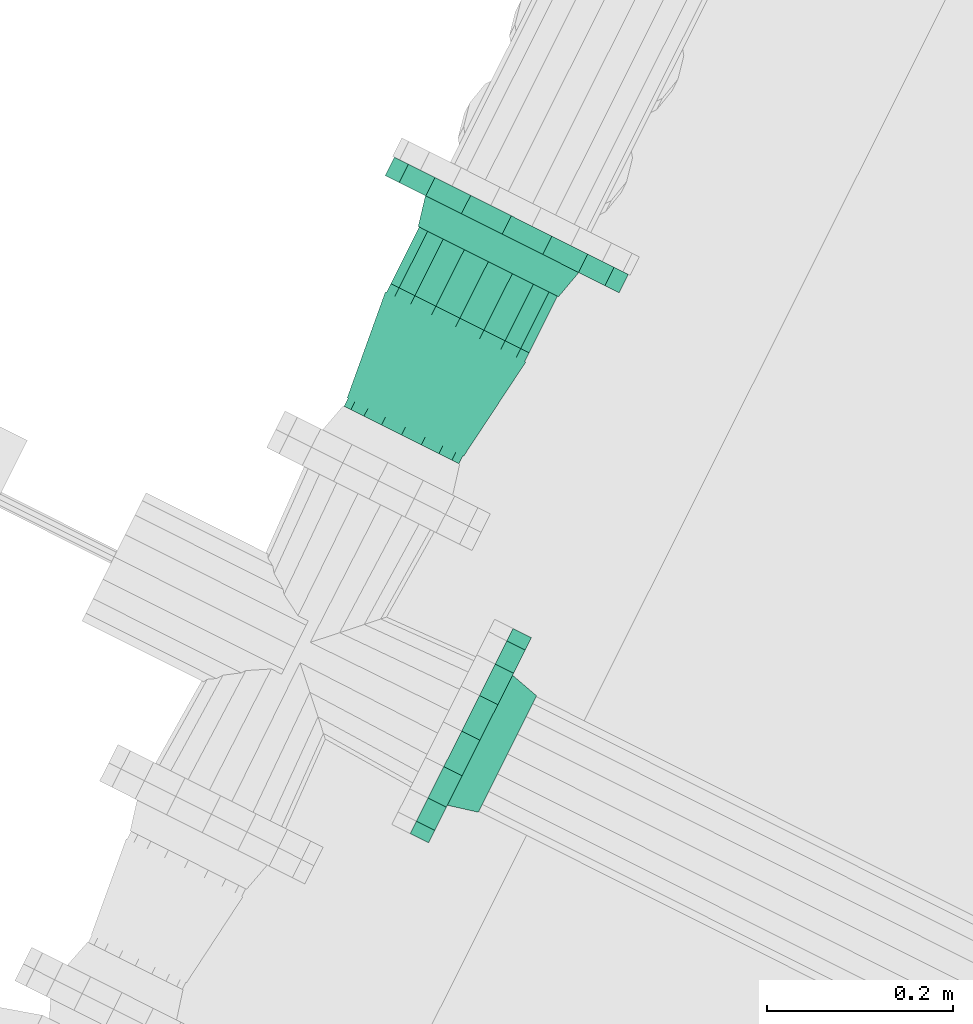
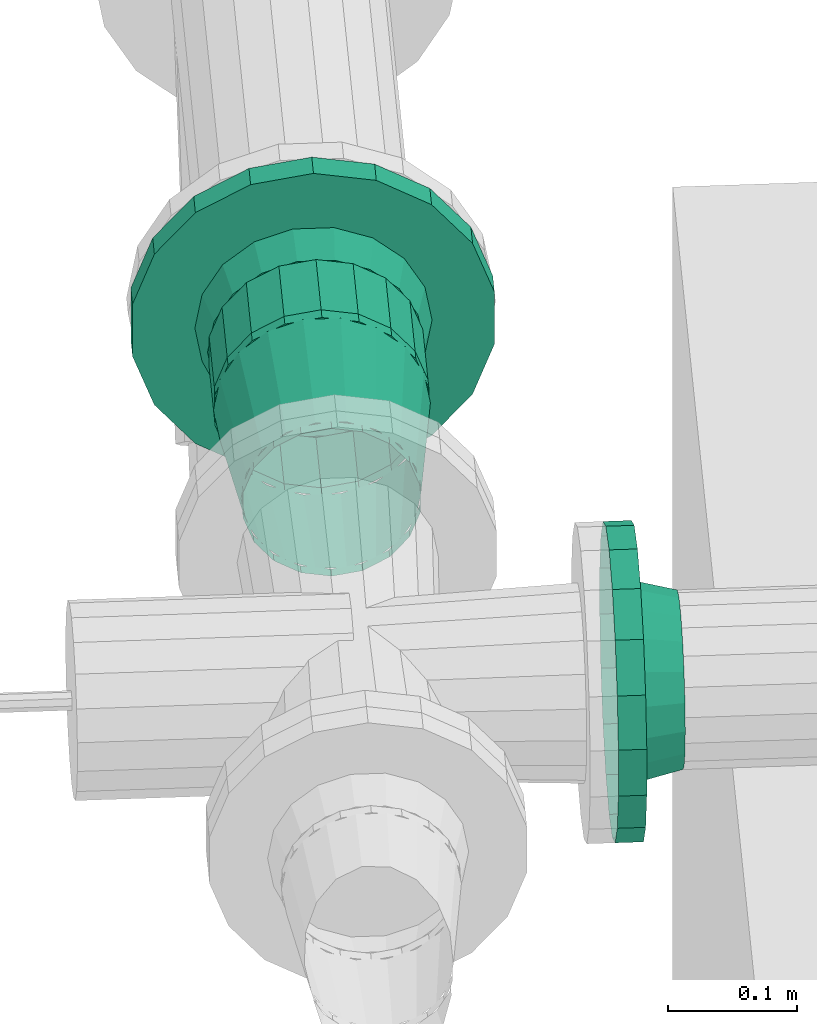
# One storey, part 120 of 206: 3 flow fittings, 1 flow segment.
"""IFC2X3 building model written with IfcOpenShell, lengths in metres."""

import ifcopenshell
import ifcopenshell.guid

model = None  # the IFC model being written
_history = None  # IfcOwnerHistory: only IFC2X3 demands one
_inside = {}  # id of a spatial element -> (the spatial element, [elements in it])
_under = {}  # id of a project, library or spatial element -> (it, [spatial elements below it])
_declared = {}  # id of a project -> (the project, [libraries it declares])
_typed = {}  # id of a type object -> (the type object, [elements of that type])
_made_of = {}  # id of a material, layer set ... -> (it, [elements and type objects made of it])


def new_model(schema):
    """Start an empty IFC model of exactly this schema.

    Asked for "IFC4X3", IfcOpenShell would pick the latest addendum, in which some entities
    have other attributes; the version numbers below select the first issue.
    IFC2X3 requires an IfcOwnerHistory on every rooted entity: one is made here for all.
    """
    global model, _history
    if schema == "IFC4X3":
        model = ifcopenshell.file(schema_version=(4, 3, 0, 0))
    else:
        model = ifcopenshell.file(schema=schema)
    _inside.clear()
    _under.clear()
    _declared.clear()
    _typed.clear()
    _made_of.clear()
    _history = None
    if model.schema == "IFC2X3":
        org = make("IfcOrganization", Name="unknown")
        user = make(
            "IfcPersonAndOrganization",
            ThePerson=make("IfcPerson", FamilyName="unknown"),
            TheOrganization=org,
        )
        app = make(
            "IfcApplication",
            ApplicationDeveloper=org,
            Version="unknown",
            ApplicationFullName="unknown",
            ApplicationIdentifier="unknown",
        )
        _history = make(
            "IfcOwnerHistory",
            OwningUser=user,
            OwningApplication=app,
            ChangeAction="ADDED",
            CreationDate=0,
        )
    return model


def make(cls, **values):
    """One entity of the class cls with the attributes given. An attribute that is None is left unset."""
    return model.create_entity(
        cls, **{name: value for name, value in values.items() if value is not None}
    )


def rooted(cls, **values):
    """An entity with a GlobalId (a new one), such as an element, a storey or a relation."""
    return make(cls, GlobalId=ifcopenshell.guid.new(), OwnerHistory=_history, **values)


def si_unit(unit_type, name, prefix=None):
    """IfcSIUnit, for example si_unit("LENGTHUNIT", "METRE", prefix="MILLI")."""
    return make("IfcSIUnit", UnitType=unit_type, Prefix=prefix, Name=name)


def derived_unit(unit_type, elements):
    """IfcDerivedUnit: a product of units, each with its exponent."""
    return make(
        "IfcDerivedUnit",
        Elements=[
            make("IfcDerivedUnitElement", Unit=unit, Exponent=power)
            for unit, power in elements
        ],
        UnitType=unit_type,
    )


def assignment(units):
    """IfcUnitAssignment: the units of a project."""
    return None if units is None else make("IfcUnitAssignment", Units=units)


def point(xyz):
    """IfcCartesianPoint."""
    return None if xyz is None else make("IfcCartesianPoint", Coordinates=xyz)


def direction(xyz):
    """IfcDirection."""
    return None if xyz is None else make("IfcDirection", DirectionRatios=xyz)


def frame(location, z_axis=None, x_axis=None):
    """IfcAxis2Placement3D, a coordinate frame: its origin and axes. An axis left out is left unset."""
    return make(
        "IfcAxis2Placement3D",
        Location=point(location),
        Axis=direction(z_axis),
        RefDirection=direction(x_axis),
    )


def origin():
    """The frame at (0, 0, 0) with its axes left unset."""
    return frame((0.0, 0.0, 0.0))


def place(relative_to, where):
    """IfcLocalPlacement: puts the frame where relative to a parent placement (None: the world)."""
    return make(
        "IfcLocalPlacement", PlacementRelTo=relative_to, RelativePlacement=where
    )


def context(
    kind, dimensions, precision=None, world=None, true_north=None, identifier=None
):
    """IfcGeometricRepresentationContext, for example the 3D "Model" context."""
    return make(
        "IfcGeometricRepresentationContext",
        ContextIdentifier=identifier,
        ContextType=kind,
        CoordinateSpaceDimension=dimensions,
        Precision=precision,
        WorldCoordinateSystem=world,
        TrueNorth=true_north,
    )


def subcontext(parent, identifier, kind, view, scale=None):
    """IfcGeometricRepresentationSubContext, for example "Body" below "Model"."""
    return make(
        "IfcGeometricRepresentationSubContext",
        ContextIdentifier=identifier,
        ContextType=kind,
        ParentContext=parent,
        TargetScale=scale,
        TargetView=view,
    )


def project(units=None, contexts=None):
    """IfcProject with its units and contexts."""
    return rooted(
        "IfcProject",
        Name="project",
        RepresentationContexts=contexts,
        UnitsInContext=assignment(units),
    )


def spatial(cls, under=None, at=None, **own):
    """A site, building, storey or space (cls), placed at a placement, below another one or the project."""
    s = rooted(cls, ObjectPlacement=at, **own)
    if under is not None:
        _under.setdefault(under.id(), (under, []))[1].append(s)
    return s


def faces_of(points, faces, orient=None, outer=None):
    """IfcFace entities. A face is a list of loops; a loop is a list of indices into points, from 0.

    orient and outer hold one flag for each loop. By default every Orientation is true, the
    first loop of a face is its IfcFaceOuterBound and the others are IfcFaceBound.
    """
    made = []
    for i, loops in enumerate(faces):
        bounds = []
        for j, loop in enumerate(loops):
            is_outer = j == 0 if outer is None else outer[i][j]
            bounds.append(
                make(
                    "IfcFaceOuterBound" if is_outer else "IfcFaceBound",
                    Bound=make("IfcPolyLoop", Polygon=[points[k] for k in loop]),
                    Orientation=True if orient is None else orient[i][j],
                )
            )
        made.append(make("IfcFace", Bounds=bounds))
    return made


def face_set(faces, orient=None, outer=None):
    """The faces of one IfcConnectedFaceSet. surface_model builds it on its shared points."""
    return ("IfcConnectedFaceSet", faces, orient, outer)


def surface_model(cls, points, shells):
    """IfcFaceBasedSurfaceModel or IfcShellBasedSurfaceModel (cls): surfaces that need not close."""
    shared = [point(p) for p in points]
    made = [make(c, CfsFaces=faces_of(shared, fs, o, b)) for c, fs, o, b in shells]
    if cls == "IfcFaceBasedSurfaceModel":
        return make(cls, FbsmFaces=made)
    return make(cls, SbsmBoundary=made)


def shape(context_of_items, identifier, shape_type, items):
    """IfcShapeRepresentation: the items that make up one representation, for example the "Body"."""
    return make(
        "IfcShapeRepresentation",
        ContextOfItems=context_of_items,
        RepresentationIdentifier=identifier,
        RepresentationType=shape_type,
        Items=items,
    )


def source(mapping_origin, context_of_items, identifier, shape_type, items):
    """IfcRepresentationMap: a shape defined once, which mapped items show again and again."""
    return make(
        "IfcRepresentationMap",
        MappingOrigin=mapping_origin,
        MappedRepresentation=shape(context_of_items, identifier, shape_type, items),
    )


def transform(
    local_origin,
    x_axis=None,
    y_axis=None,
    z_axis=None,
    scale=None,
    scale2=None,
    scale3=None,
    uniform=True,
):
    """IfcCartesianTransformationOperator3D, or its non-uniform kind. x_axis, y_axis, z_axis: its Axis1, 2, 3."""
    if uniform:
        return make(
            "IfcCartesianTransformationOperator3D",
            Axis1=direction(x_axis),
            Axis2=direction(y_axis),
            LocalOrigin=point(local_origin),
            Scale=scale,
            Axis3=direction(z_axis),
        )
    return make(
        "IfcCartesianTransformationOperator3DnonUniform",
        Axis1=direction(x_axis),
        Axis2=direction(y_axis),
        LocalOrigin=point(local_origin),
        Scale=scale,
        Axis3=direction(z_axis),
        Scale2=scale2,
        Scale3=scale3,
    )


def mapped(mapping_source, mapping_target):
    """IfcMappedItem: shows the shape of a source again, moved by a transform."""
    return make(
        "IfcMappedItem", MappingSource=mapping_source, MappingTarget=mapping_target
    )


def material(Name=None, Category=None):
    """IfcMaterial."""
    return make("IfcMaterial", Name=Name, Category=Category)


def made_of(thing, what):
    """Note that an element or type object is made of a material, layer set ...; save() writes the relation."""
    if what is not None:
        _made_of.setdefault(what.id(), (what, []))[1].append(thing)
    return thing


def type_object(cls, material=None, **own):
    """A type object (cls), such as IfcWallType, which elements share."""
    return made_of(rooted(cls, **own), material)


def type_shapes(of_type, sources):
    """Give a type object the sources (RepresentationMaps) that its elements show as mapped items."""
    of_type.RepresentationMaps = sources


def element(
    cls,
    number,
    at=None,
    inside=None,
    cuts=None,
    type_object=None,
    material=None,
    context=None,
    identifier="Body",
    shape_type=None,
    held_by="IfcProductDefinitionShape",
    body=None,
    shapes=None,
    **own,
):
    """One element of the class cls, such as IfcWall. Its Tag is "e" and its number.

    at: its placement. inside: the storey or other place that contains it. cuts: it is an
    opening in that element (IfcRelVoidsElement). A single representation is given by context,
    identifier, shape_type and body (its items); several are given by shapes. held_by: the class
    of the entity that holds the representations. save() writes the other relations.
    """
    e = rooted(cls, Tag="e%d" % number, ObjectPlacement=at, **own)
    if body is not None:
        shapes = [shape(context, identifier, shape_type, body)]
    if shapes is not None:
        e.Representation = make(held_by, Representations=shapes)
    if inside is not None:
        _inside.setdefault(inside.id(), (inside, []))[1].append(e)
    if cuts is not None:
        rooted(
            "IfcRelVoidsElement", RelatingBuildingElement=cuts, RelatedOpeningElement=e
        )
    if type_object is not None:
        _typed.setdefault(type_object.id(), (type_object, []))[1].append(e)
    return made_of(e, material)


def aggregate(whole, parts):
    """IfcRelAggregates: a whole, such as a stair, and the parts it consists of."""
    return rooted("IfcRelAggregates", RelatingObject=whole, RelatedObjects=parts)


def save(model, path):
    """Write the relations noted so far, then the file.

    IfcRelAggregates (storeys below a building ...), IfcRelContainedInSpatialStructure (elements
    in a storey), IfcRelDefinesByType, IfcRelAssociatesMaterial and IfcRelDeclares: one each for
    every whole, place, type object, material and project.
    """
    for whole, parts in _under.values():
        aggregate(whole, parts)
    for where, things in _inside.values():
        rooted(
            "IfcRelContainedInSpatialStructure",
            RelatedElements=things,
            RelatingStructure=where,
        )
    for kind, things in _typed.values():
        rooted("IfcRelDefinesByType", RelatedObjects=things, RelatingType=kind)
    for what, things in _made_of.values():
        rooted("IfcRelAssociatesMaterial", RelatedObjects=things, RelatingMaterial=what)
    for by, libraries in _declared.values():
        rooted("IfcRelDeclares", RelatingContext=by, RelatedDefinitions=libraries)
    model.write(path)


model = new_model("IFC2X3")

# Units and contexts
model_context = context("Model", 3, precision=5.2338327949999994e-05, world=origin(), true_north=direction((0.0, 1.0)))
body_context = subcontext(model_context, "Body", "Model", "MODEL_VIEW")
ifc_project = project(units=[si_unit("LENGTHUNIT", "METRE"), si_unit("AREAUNIT", "SQUARE_METRE"), si_unit("VOLUMEUNIT", "CUBIC_METRE"), si_unit("MASSUNIT", "GRAM", prefix="KILO"), si_unit("PLANEANGLEUNIT", "RADIAN"), derived_unit("THERMALTRANSMITTANCEUNIT", [(si_unit("MASSUNIT", "GRAM", prefix="KILO"), 1), (si_unit("THERMODYNAMICTEMPERATUREUNIT", "KELVIN"), -1), (si_unit("TIMEUNIT", "SECOND"), -3)])], contexts=[model_context])

# Site, building, storey
site_placement = place(None, frame((0.0, 0.0, 0.0), z_axis=(0.0, 0.0, 1.0), x_axis=(0.8939966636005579, -0.4480736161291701, 0.0)))
site = spatial("IfcSite", under=ifc_project, at=site_placement, Name="Default", CompositionType="ELEMENT")
building_placement = place(site_placement, origin())
building = spatial("IfcBuilding", under=site, at=building_placement, CompositionType="ELEMENT")
storey_placement = place(building_placement, origin())
storey = spatial("IfcBuildingStorey", under=building, at=storey_placement, Name="Erdgeschoss", CompositionType="ELEMENT", Elevation=0.0)

# Flow fitting
ifc_material = material(Name="IfcSurfaceStyle #1741")
distribution_element_type_1 = type_object("IfcDistributionElementType", Name="Übergangsstück 314738:Übergangsstück 314738", material=ifc_material)
shared_shape_1 = source(origin(), body_context, "Body", "SurfaceModel", [
    surface_model("IfcFaceBasedSurfaceModel", [(20.35098007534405, 6.913961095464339, 2.28415), (20.327089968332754, 6.913961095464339, 2.2883624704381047), (20.327089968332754, 6.92349026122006, 2.2883624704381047), (20.35098007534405, 6.92349026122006, 2.28415), (20.306081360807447, 6.913961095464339, 2.3004917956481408), (20.306081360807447, 6.92349026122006, 2.3004917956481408), (20.29048820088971, 6.913961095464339, 2.3190750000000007), (20.29048820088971, 6.92349026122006, 2.3190750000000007), (20.282191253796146, 6.913961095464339, 2.3418706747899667), (20.282191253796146, 6.92349026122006, 2.3418706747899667), (20.282191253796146, 6.913961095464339, 2.366129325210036), (20.282191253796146, 6.92349026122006, 2.366129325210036), (20.29048820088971, 6.913961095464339, 2.3889250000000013), (20.29048820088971, 6.92349026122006, 2.3889250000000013), (20.306081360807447, 6.913961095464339, 2.407508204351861), (20.306081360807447, 6.92349026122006, 2.407508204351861), (20.327089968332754, 6.913961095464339, 2.419637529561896), (20.327089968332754, 6.92349026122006, 2.419637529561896), (20.350980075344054, 6.913961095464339, 2.4238500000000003), (20.350980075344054, 6.92349026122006, 2.4238500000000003), (20.37487018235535, 6.913961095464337, 2.419637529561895), (20.37487018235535, 6.92349026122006, 2.4196375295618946), (20.39587878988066, 6.913961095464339, 2.407508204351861), (20.39587878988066, 6.92349026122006, 2.4075082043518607), (20.411471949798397, 6.913961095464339, 2.3889249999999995), (20.411471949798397, 6.92349026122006, 2.3889249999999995), (20.419768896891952, 6.913961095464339, 2.366129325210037), (20.419768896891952, 6.92349026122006, 2.366129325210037), (20.419768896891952, 6.913961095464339, 2.3418706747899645), (20.419768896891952, 6.92349026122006, 2.3418706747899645), (20.411471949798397, 6.913961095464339, 2.319074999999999), (20.411471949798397, 6.92349026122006, 2.319074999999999), (20.39587878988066, 6.913961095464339, 2.3004917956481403), (20.39587878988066, 6.92349026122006, 2.3004917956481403), (20.37487018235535, 6.913961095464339, 2.2883624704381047), (20.37487018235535, 6.92349026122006, 2.2883624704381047), (20.281130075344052, 6.92349026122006, 2.3539999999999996), (20.28534254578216, 6.92349026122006, 2.377890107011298), (20.271904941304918, 7.043501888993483, 2.3827809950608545), (20.266830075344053, 7.043501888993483, 2.354000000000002), (20.29747187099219, 6.92349026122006, 2.398898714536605), (20.28651743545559, 7.043501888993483, 2.408090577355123), (20.316055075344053, 6.92349026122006, 2.414491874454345), (20.30890507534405, 7.043501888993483, 2.4268760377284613), (20.338850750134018, 6.92349026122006, 2.422788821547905), (20.33636758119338, 7.043501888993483, 2.4368715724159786), (20.363109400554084, 6.92349026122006, 2.422788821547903), (20.365592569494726, 7.043501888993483, 2.4368715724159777), (20.38590507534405, 6.92349026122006, 2.414491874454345), (20.39305507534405, 7.043501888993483, 2.4268760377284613), (20.404488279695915, 6.92349026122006, 2.3988987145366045), (20.415442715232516, 7.043501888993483, 2.4080905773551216), (20.416617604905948, 6.92349026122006, 2.3778901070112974), (20.43005520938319, 7.043501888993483, 2.382780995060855), (20.420830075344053, 6.92349026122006, 2.353999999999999), (20.435130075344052, 7.043501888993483, 2.3539999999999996), (20.416617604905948, 6.92349026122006, 2.330109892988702), (20.430055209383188, 7.043501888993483, 2.3252190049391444), (20.404488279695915, 6.92349026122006, 2.309101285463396), (20.415442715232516, 7.043501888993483, 2.299909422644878), (20.38590507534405, 6.92349026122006, 2.2935081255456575), (20.393055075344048, 7.043501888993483, 2.2811239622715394), (20.363109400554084, 6.92349026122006, 2.2852111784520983), (20.36559256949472, 7.043501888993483, 2.2711284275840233), (20.338850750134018, 6.92349026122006, 2.285211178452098), (20.33636758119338, 7.043501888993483, 2.271128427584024), (20.316055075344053, 6.92349026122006, 2.2935081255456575), (20.30890507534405, 7.043501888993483, 2.2811239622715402), (20.29747187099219, 6.92349026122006, 2.309101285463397), (20.286517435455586, 7.043501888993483, 2.2999094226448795), (20.285342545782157, 6.92349026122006, 2.3301098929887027), (20.271904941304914, 7.043501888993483, 2.325219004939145), (20.35098007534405, 7.043501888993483, 2.2698500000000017), (20.32219908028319, 7.043501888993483, 2.274924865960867), (20.32219908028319, 7.053961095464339, 2.274924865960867), (20.35098007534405, 7.053961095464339, 2.2698500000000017), (20.296889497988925, 7.043501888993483, 2.28953736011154), (20.296889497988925, 7.053961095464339, 2.28953736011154), (20.278104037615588, 7.043501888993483, 2.311925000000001), (20.278104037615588, 7.053961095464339, 2.311925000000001), (20.268108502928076, 7.043501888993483, 2.339387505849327), (20.268108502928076, 7.053961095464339, 2.339387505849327), (20.268108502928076, 7.043501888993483, 2.3686124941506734), (20.268108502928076, 7.053961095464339, 2.3686124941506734), (20.278104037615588, 7.043501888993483, 2.396075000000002), (20.278104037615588, 7.053961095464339, 2.396075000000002), (20.29688949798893, 7.043501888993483, 2.4184626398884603), (20.29688949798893, 7.053961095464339, 2.4184626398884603), (20.322199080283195, 7.043501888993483, 2.433075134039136), (20.322199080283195, 7.053961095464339, 2.433075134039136), (20.350980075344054, 7.043501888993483, 2.4381500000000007), (20.350980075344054, 7.053961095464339, 2.4381500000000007), (20.37976107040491, 7.043501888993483, 2.4330751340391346), (20.37976107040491, 7.053961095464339, 2.4330751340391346), (20.40507065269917, 7.043501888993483, 2.4184626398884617), (20.40507065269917, 7.053961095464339, 2.4184626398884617), (20.42385611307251, 7.043501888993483, 2.396074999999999), (20.42385611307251, 7.053961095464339, 2.396074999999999), (20.43385164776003, 7.043501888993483, 2.3686124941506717), (20.43385164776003, 7.053961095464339, 2.3686124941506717), (20.43385164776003, 7.043501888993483, 2.339387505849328), (20.43385164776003, 7.053961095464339, 2.339387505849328), (20.42385611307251, 7.043501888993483, 2.311924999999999), (20.42385611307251, 7.053961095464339, 2.311924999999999), (20.40507065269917, 7.043501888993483, 2.289537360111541), (20.40507065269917, 7.053961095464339, 2.289537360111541), (20.3797610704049, 7.043501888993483, 2.274924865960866), (20.3797610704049, 7.053961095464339, 2.274924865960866)], [face_set([[[0, 1, 2, 3]], [[1, 4, 5, 2]], [[4, 6, 7, 5]], [[6, 8, 9, 7]], [[8, 10, 11, 9]], [[10, 12, 13, 11]], [[12, 14, 15, 13]], [[14, 16, 17, 15]], [[16, 18, 19, 17]], [[18, 20, 21, 19]], [[20, 22, 23, 21]], [[22, 24, 25, 23]], [[24, 26, 27, 25]], [[26, 28, 29, 27]], [[28, 30, 31, 29]], [[30, 32, 33, 31]], [[32, 34, 35, 33]], [[34, 0, 3, 35]], [[36, 37, 38, 39]], [[37, 40, 41, 38]], [[40, 42, 43, 41]], [[42, 44, 45, 43]], [[44, 46, 47, 45]], [[46, 48, 49, 47]], [[48, 50, 51, 49]], [[50, 52, 53, 51]], [[52, 54, 55, 53]], [[54, 56, 57, 55]], [[56, 58, 59, 57]], [[58, 60, 61, 59]], [[60, 62, 63, 61]], [[62, 64, 65, 63]], [[64, 66, 67, 65]], [[66, 68, 69, 67]], [[68, 70, 71, 69]], [[70, 36, 39, 71]], [[72, 73, 74, 75]], [[73, 76, 77, 74]], [[76, 78, 79, 77]], [[78, 80, 81, 79]], [[80, 82, 83, 81]], [[82, 84, 85, 83]], [[84, 86, 87, 85]], [[86, 88, 89, 87]], [[88, 90, 91, 89]], [[90, 92, 93, 91]], [[92, 94, 95, 93]], [[94, 96, 97, 95]], [[96, 98, 99, 97]], [[98, 100, 101, 99]], [[100, 102, 103, 101]], [[102, 104, 105, 103]], [[104, 106, 107, 105]], [[106, 72, 75, 107]]])]),
])
type_shapes(distribution_element_type_1, [shared_shape_1])
flow_fitting_1_placement = place(storey_placement, origin())
element("IfcFlowFitting", 1, at=flow_fitting_1_placement, inside=storey, type_object=distribution_element_type_1, material=ifc_material, Name="Übergangsstück", ObjectType="Übergangsstück", context=body_context, shape_type="MappedRepresentation", body=[
    mapped(shared_shape_1, transform((0.0, 0.0, 0.0), scale=1.0)),
])

# Flow segment
distribution_element_type_2 = type_object("IfcDistributionElementType", Name="Stahlrohr nach DIN 2448 314761:Stahlrohr nach DIN 2448 314761", material=ifc_material)
shared_shape_2 = source(origin(), body_context, "Body", "SurfaceModel", [
    surface_model("IfcFaceBasedSurfaceModel", [(20.350980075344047, 7.053961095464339, 2.438149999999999), (20.3797610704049, 7.053961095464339, 2.4330751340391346), (20.379761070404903, 7.12189267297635, 2.433075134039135), (20.35098007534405, 7.12189267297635, 2.43815), (20.405070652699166, 7.053961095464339, 2.4184626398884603), (20.405070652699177, 7.12189267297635, 2.418462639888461), (20.423856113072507, 7.053961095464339, 2.396075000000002), (20.423856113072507, 7.12189267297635, 2.396075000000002), (20.433851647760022, 7.053961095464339, 2.3686124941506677), (20.43385164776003, 7.12189267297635, 2.3686124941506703), (20.433851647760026, 7.053961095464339, 2.339387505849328), (20.433851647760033, 7.12189267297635, 2.339387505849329), (20.423856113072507, 7.053961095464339, 2.3119250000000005), (20.423856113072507, 7.12189267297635, 2.3119250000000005), (20.405070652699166, 7.053961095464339, 2.289537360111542), (20.405070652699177, 7.12189267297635, 2.2895373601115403), (20.3797610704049, 7.053961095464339, 2.274924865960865), (20.379761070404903, 7.12189267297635, 2.2749248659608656), (20.350980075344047, 7.0539610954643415, 2.269849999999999), (20.35098007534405, 7.12189267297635, 2.2698500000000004), (20.32219908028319, 7.053961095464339, 2.2749248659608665), (20.322199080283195, 7.12189267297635, 2.2749248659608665), (20.296889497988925, 7.053961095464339, 2.28953736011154), (20.29688949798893, 7.12189267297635, 2.2895373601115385), (20.27810403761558, 7.053961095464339, 2.3119249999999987), (20.278104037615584, 7.12189267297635, 2.311925), (20.268108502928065, 7.053961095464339, 2.3393875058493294), (20.268108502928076, 7.12189267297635, 2.3393875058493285), (20.268108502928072, 7.053961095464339, 2.3686124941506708), (20.268108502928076, 7.12189267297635, 2.368612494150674), (20.27810403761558, 7.053961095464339, 2.396075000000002), (20.278104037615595, 7.12189267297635, 2.396075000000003), (20.296889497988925, 7.053961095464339, 2.4184626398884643), (20.296889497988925, 7.12189267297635, 2.418462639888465), (20.32219908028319, 7.053961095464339, 2.4330751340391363), (20.3221990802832, 7.12189267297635, 2.4330751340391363)], [face_set([[[0, 1, 2, 3]], [[1, 4, 5, 2]], [[4, 6, 7, 5]], [[6, 8, 9, 7]], [[8, 10, 11, 9]], [[10, 12, 13, 11]], [[12, 14, 15, 13]], [[14, 16, 17, 15]], [[16, 18, 19, 17]], [[18, 20, 21, 19]], [[20, 22, 23, 21]], [[22, 24, 25, 23]], [[24, 26, 27, 25]], [[26, 28, 29, 27]], [[28, 30, 31, 29]], [[30, 32, 33, 31]], [[32, 34, 35, 33]], [[34, 0, 3, 35]]])]),
])
type_shapes(distribution_element_type_2, [shared_shape_2])
flow_segment_placement = place(storey_placement, origin())
element("IfcFlowSegment", 2, at=flow_segment_placement, inside=storey, type_object=distribution_element_type_2, material=ifc_material, Name="Stahlrohr nach DIN 2448", ObjectType="Stahlrohr nach DIN 2448", context=body_context, shape_type="MappedRepresentation", body=[
    mapped(shared_shape_2, transform((0.0, 0.0, 0.0), scale=1.0)),
])

# Flow fittings
distribution_element_type_3 = type_object("IfcDistributionElementType", Name="Flansch 314916:Flansch 314916", material=ifc_material)
shared_shape_3 = source(origin(), body_context, "Body", "SurfaceModel", [
    surface_model("IfcFaceBasedSurfaceModel", [(20.43513007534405, 7.121892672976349, 2.353999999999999), (20.430055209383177, 7.121892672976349, 2.325219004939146), (20.437431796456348, 7.15489267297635, 2.3225341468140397), (20.44298007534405, 7.1548926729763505, 2.3539999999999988), (20.415442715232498, 7.121892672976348, 2.2999094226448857), (20.421456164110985, 7.154892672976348, 2.2948635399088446), (20.393055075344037, 7.121892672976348, 2.2811239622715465), (20.396980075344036, 7.154892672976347, 2.2743256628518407), (20.36559256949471, 7.121892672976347, 2.2711284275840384), (20.36695570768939, 7.154892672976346, 2.263397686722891), (20.336367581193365, 7.121892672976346, 2.2711284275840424), (20.33500444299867, 7.154892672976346, 2.2633976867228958), (20.30890507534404, 7.121892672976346, 2.2811239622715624), (20.304980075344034, 7.154892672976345, 2.2743256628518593), (20.286517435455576, 7.121892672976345, 2.2999094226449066), (20.280503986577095, 7.154892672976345, 2.294863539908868), (20.27190494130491, 7.121892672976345, 2.3252190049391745), (20.26452835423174, 7.154892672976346, 2.322534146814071), (20.266830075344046, 7.121892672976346, 2.354000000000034), (20.258980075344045, 7.154892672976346, 2.3540000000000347), (20.271904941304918, 7.121892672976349, 2.382780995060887), (20.264528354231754, 7.154892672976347, 2.385465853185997), (20.286517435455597, 7.121892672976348, 2.4080905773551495), (20.28050398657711, 7.154892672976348, 2.4131364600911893), (20.308905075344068, 7.121892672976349, 2.4268760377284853), (20.304980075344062, 7.15489267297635, 2.433674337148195), (20.336367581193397, 7.121892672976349, 2.4368715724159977), (20.335004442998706, 7.1548926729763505, 2.444602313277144), (20.365592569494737, 7.121892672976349, 2.436871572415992), (20.366955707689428, 7.154892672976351, 2.444602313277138), (20.393055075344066, 7.121892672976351, 2.4268760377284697), (20.39698007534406, 7.154892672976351, 2.4336743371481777), (20.415442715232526, 7.121892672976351, 2.408090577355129), (20.42145616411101, 7.154892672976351, 2.4131364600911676), (20.43005520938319, 7.121892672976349, 2.382780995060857), (20.43743179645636, 7.154892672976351, 2.385465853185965), (20.350980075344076, 7.154892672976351, 2.4965000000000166), (20.399717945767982, 7.154892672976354, 2.487906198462), (20.399717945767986, 7.176892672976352, 2.487906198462), (20.350980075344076, 7.176892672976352, 2.496500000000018), (20.442577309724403, 7.154892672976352, 2.463161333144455), (20.442577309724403, 7.176892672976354, 2.463161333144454), (20.47438869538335, 7.154892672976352, 2.4252499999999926), (20.474388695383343, 7.176892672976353, 2.4252499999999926), (20.491315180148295, 7.154892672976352, 2.3787448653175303), (20.491315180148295, 7.176892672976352, 2.3787448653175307), (20.491315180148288, 7.1548926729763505, 2.3292551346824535), (20.491315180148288, 7.176892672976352, 2.3292551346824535), (20.47438869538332, 7.154892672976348, 2.2827499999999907), (20.47438869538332, 7.17689267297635, 2.2827499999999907), (20.442577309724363, 7.154892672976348, 2.2448386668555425), (20.44257730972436, 7.176892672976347, 2.244838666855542), (20.39971794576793, 7.154892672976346, 2.2200938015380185), (20.399717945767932, 7.176892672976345, 2.220093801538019), (20.30224220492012, 7.154892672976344, 2.220093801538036), (20.2593828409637, 7.154892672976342, 2.2448386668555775), (20.259382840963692, 7.176892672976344, 2.244838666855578), (20.302242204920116, 7.176892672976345, 2.2200938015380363), (20.227571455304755, 7.154892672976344, 2.2827500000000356), (20.227571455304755, 7.176892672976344, 2.2827500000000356), (20.21064497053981, 7.154892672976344, 2.329255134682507), (20.21064497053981, 7.176892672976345, 2.3292551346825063), (20.210644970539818, 7.154892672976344, 2.3787448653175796), (20.210644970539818, 7.176892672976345, 2.3787448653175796), (20.227571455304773, 7.154892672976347, 2.425250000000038), (20.227571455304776, 7.176892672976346, 2.4252500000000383), (20.259382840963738, 7.154892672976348, 2.463161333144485), (20.259382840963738, 7.17689267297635, 2.4631613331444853), (20.302242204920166, 7.1548926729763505, 2.487906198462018), (20.302242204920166, 7.176892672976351, 2.487906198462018), (20.350980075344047, 7.154892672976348, 2.354000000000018), (20.350980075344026, 7.154892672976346, 2.211500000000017), (20.350980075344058, 7.176892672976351, 2.2115000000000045)], [face_set([[[0, 1, 2, 3]], [[1, 4, 5, 2]], [[4, 6, 7, 5]], [[6, 8, 9, 7]], [[8, 10, 11, 9]], [[10, 12, 13, 11]], [[12, 14, 15, 13]], [[14, 16, 17, 15]], [[16, 18, 19, 17]], [[18, 20, 21, 19]], [[20, 22, 23, 21]], [[22, 24, 25, 23]], [[24, 26, 27, 25]], [[26, 28, 29, 27]], [[28, 30, 31, 29]], [[30, 32, 33, 31]], [[32, 34, 35, 33]], [[34, 0, 3, 35]], [[36, 37, 38, 39]], [[37, 40, 41, 38]], [[40, 42, 43, 41]], [[42, 44, 45, 43]], [[44, 46, 47, 45]], [[46, 48, 49, 47]], [[48, 50, 51, 49]], [[50, 52, 53, 51]], [[54, 55, 56, 57]], [[55, 58, 59, 56]], [[58, 60, 61, 59]], [[60, 62, 63, 61]], [[62, 64, 65, 63]], [[64, 66, 67, 65]], [[66, 68, 69, 67]], [[68, 36, 39, 69]], [[70, 37, 36]], [[70, 40, 37]], [[70, 42, 40]], [[70, 44, 42]], [[70, 46, 44]], [[70, 48, 46]], [[70, 50, 48]], [[70, 52, 50]], [[70, 71, 52]], [[70, 54, 71]], [[70, 55, 54]], [[70, 58, 55]], [[70, 60, 58]], [[70, 62, 60]], [[70, 64, 62]], [[70, 66, 64]], [[70, 68, 66]], [[70, 36, 68]], [[52, 71, 72, 53]], [[71, 54, 57, 72]]])]),
])
type_shapes(distribution_element_type_3, [shared_shape_3])
flow_fitting_2_placement = place(storey_placement, origin())
element("IfcFlowFitting", 3, at=flow_fitting_2_placement, inside=storey, type_object=distribution_element_type_3, material=ifc_material, Name="Flansch", ObjectType="Flansch", context=body_context, shape_type="MappedRepresentation", body=[
    mapped(shared_shape_3, transform((0.0, 0.0, 0.0), scale=1.0)),
])
distribution_element_type_4 = type_object("IfcDistributionElementType", Name="Flansch 317259:Flansch 317259", material=ifc_material)
shared_shape_4 = source(origin(), body_context, "Body", "SurfaceModel", [
    surface_model("IfcFaceBasedSurfaceModel", [(20.550980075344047, 6.658961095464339, 2.479), (20.550980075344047, 6.616208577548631, 2.471461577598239), (20.57298007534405, 6.616208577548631, 2.471461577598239), (20.57298007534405, 6.658961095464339, 2.479), (20.550980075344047, 6.578612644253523, 2.449755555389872), (20.57298007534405, 6.578612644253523, 2.449755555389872), (20.550980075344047, 6.550707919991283, 2.416500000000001), (20.57298007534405, 6.550707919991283, 2.416500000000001), (20.550980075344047, 6.535860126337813, 2.3757060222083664), (20.57298007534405, 6.535860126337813, 2.3757060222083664), (20.550980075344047, 6.535860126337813, 2.3322939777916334), (20.57298007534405, 6.535860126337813, 2.3322939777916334), (20.550980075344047, 6.550707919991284, 2.2915), (20.57298007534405, 6.550707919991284, 2.2915), (20.550980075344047, 6.578612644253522, 2.2582444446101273), (20.57298007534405, 6.578612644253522, 2.2582444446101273), (20.550980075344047, 6.616208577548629, 2.2365384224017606), (20.57298007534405, 6.616208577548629, 2.2365384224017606), (20.550980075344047, 6.6589610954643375, 2.2290000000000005), (20.57298007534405, 6.6589610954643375, 2.2290000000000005), (20.550980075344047, 6.701713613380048, 2.236538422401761), (20.57298007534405, 6.701713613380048, 2.236538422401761), (20.550980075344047, 6.739309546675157, 2.258244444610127), (20.57298007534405, 6.739309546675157, 2.258244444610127), (20.550980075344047, 6.7672142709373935, 2.2915), (20.57298007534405, 6.7672142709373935, 2.2915), (20.550980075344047, 6.782062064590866, 2.332293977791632), (20.57298007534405, 6.782062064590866, 2.332293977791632), (20.550980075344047, 6.782062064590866, 2.3757060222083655), (20.57298007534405, 6.782062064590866, 2.3757060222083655), (20.550980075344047, 6.767214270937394, 2.4165), (20.57298007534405, 6.767214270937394, 2.4165), (20.550980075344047, 6.739309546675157, 2.4497555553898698), (20.57298007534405, 6.739309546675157, 2.4497555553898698), (20.550980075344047, 6.7017136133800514, 2.471461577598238), (20.57298007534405, 6.7017136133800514, 2.471461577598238), (20.57298007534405, 6.658961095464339, 2.354), (20.57298007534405, 6.580961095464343, 2.353999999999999), (20.57298007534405, 6.585665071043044, 2.327322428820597), (20.60598007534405, 6.593323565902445, 2.330109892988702), (20.60598007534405, 6.5891110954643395, 2.3539999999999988), (20.57298007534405, 6.599209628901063, 2.303862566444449), (20.60598007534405, 6.60545289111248, 2.3091012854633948), (20.57298007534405, 6.619961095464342, 2.2864500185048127), (20.60598007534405, 6.6240360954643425, 2.2935081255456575), (20.57298007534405, 6.645416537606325, 2.2771849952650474), (20.60598007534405, 6.646831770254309, 2.285211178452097), (20.57298007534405, 6.672505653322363, 2.2771849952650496), (20.60598007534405, 6.6710904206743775, 2.2852111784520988), (20.57298007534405, 6.697961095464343, 2.286450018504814), (20.60598007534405, 6.693886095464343, 2.293508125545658), (20.57298007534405, 6.718712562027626, 2.303862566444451), (20.60598007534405, 6.712469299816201, 2.3091012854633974), (20.57298007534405, 6.732257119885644, 2.3273224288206), (20.60598007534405, 6.724598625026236, 2.3301098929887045), (20.57298007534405, 6.736961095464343, 2.354000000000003), (20.60598007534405, 6.728811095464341, 2.354000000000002), (20.57298007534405, 6.7322571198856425, 2.380677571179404), (20.60598007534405, 6.724598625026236, 2.3778901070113), (20.57298007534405, 6.718712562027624, 2.4041374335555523), (20.60598007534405, 6.712469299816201, 2.398898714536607), (20.57298007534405, 6.69796109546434, 2.421549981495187), (20.60598007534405, 6.69388609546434, 2.4144918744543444), (20.57298007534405, 6.672505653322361, 2.4308150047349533), (20.60598007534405, 6.671090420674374, 2.422788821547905), (20.57298007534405, 6.645416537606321, 2.430815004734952), (20.60598007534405, 6.646831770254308, 2.4227888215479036), (20.57298007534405, 6.619961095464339, 2.4215499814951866), (20.60598007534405, 6.624036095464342, 2.414491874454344), (20.57298007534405, 6.59920962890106, 2.4041374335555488), (20.60598007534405, 6.605452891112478, 2.3988987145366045), (20.57298007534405, 6.5856650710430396, 2.3806775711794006), (20.60598007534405, 6.593323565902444, 2.377890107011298)], [face_set([[[0, 1, 2, 3]], [[1, 4, 5, 2]], [[4, 6, 7, 5]], [[6, 8, 9, 7]], [[8, 10, 11, 9]], [[10, 12, 13, 11]], [[12, 14, 15, 13]], [[14, 16, 17, 15]], [[16, 18, 19, 17]], [[18, 20, 21, 19]], [[20, 22, 23, 21]], [[22, 24, 25, 23]], [[24, 26, 27, 25]], [[26, 28, 29, 27]], [[28, 30, 31, 29]], [[30, 32, 33, 31]], [[32, 34, 35, 33]], [[34, 0, 3, 35]], [[36, 35, 3]], [[36, 33, 35]], [[36, 31, 33]], [[36, 29, 31]], [[36, 27, 29]], [[36, 25, 27]], [[36, 23, 25]], [[36, 21, 23]], [[36, 19, 21]], [[36, 17, 19]], [[36, 15, 17]], [[36, 13, 15]], [[36, 11, 13]], [[36, 9, 11]], [[36, 7, 9]], [[36, 5, 7]], [[36, 2, 5]], [[36, 3, 2]], [[37, 38, 39, 40]], [[38, 41, 42, 39]], [[41, 43, 44, 42]], [[43, 45, 46, 44]], [[45, 47, 48, 46]], [[47, 49, 50, 48]], [[49, 51, 52, 50]], [[51, 53, 54, 52]], [[53, 55, 56, 54]], [[55, 57, 58, 56]], [[57, 59, 60, 58]], [[59, 61, 62, 60]], [[61, 63, 64, 62]], [[63, 65, 66, 64]], [[65, 67, 68, 66]], [[67, 69, 70, 68]], [[69, 71, 72, 70]], [[71, 37, 40, 72]]])]),
])
type_shapes(distribution_element_type_4, [shared_shape_4])
flow_fitting_3_placement = place(storey_placement, origin())
element("IfcFlowFitting", 4, at=flow_fitting_3_placement, inside=storey, type_object=distribution_element_type_4, material=ifc_material, Name="Flansch", ObjectType="Flansch", context=body_context, shape_type="MappedRepresentation", body=[
    mapped(shared_shape_4, transform((0.0, 0.0, 0.0), scale=1.0)),
])

save(model, "model.ifc")
